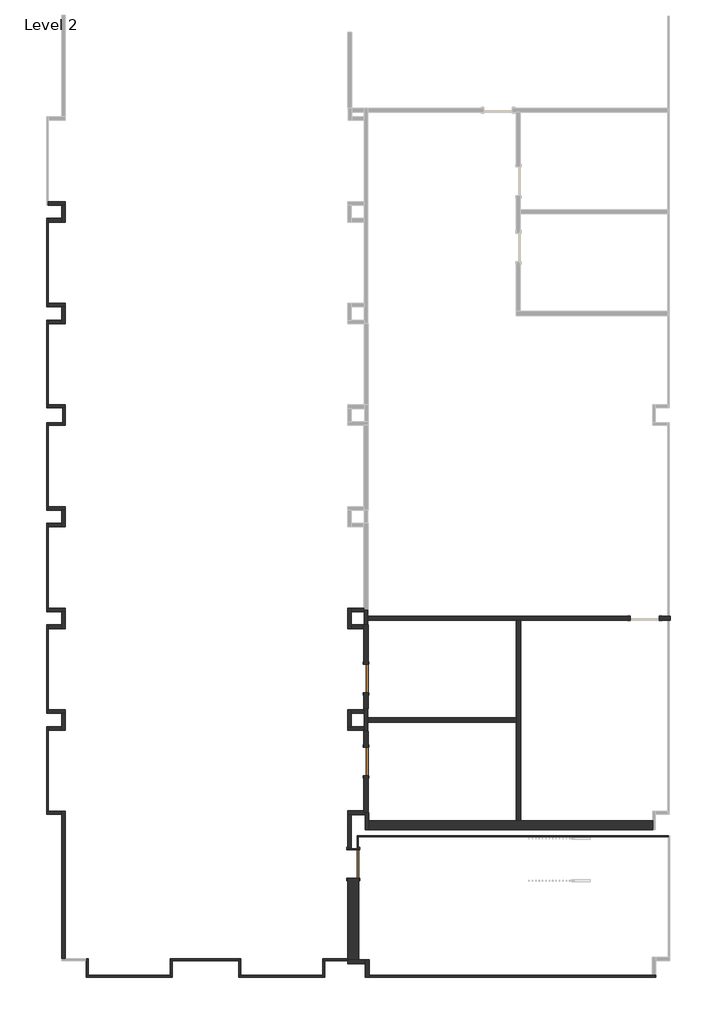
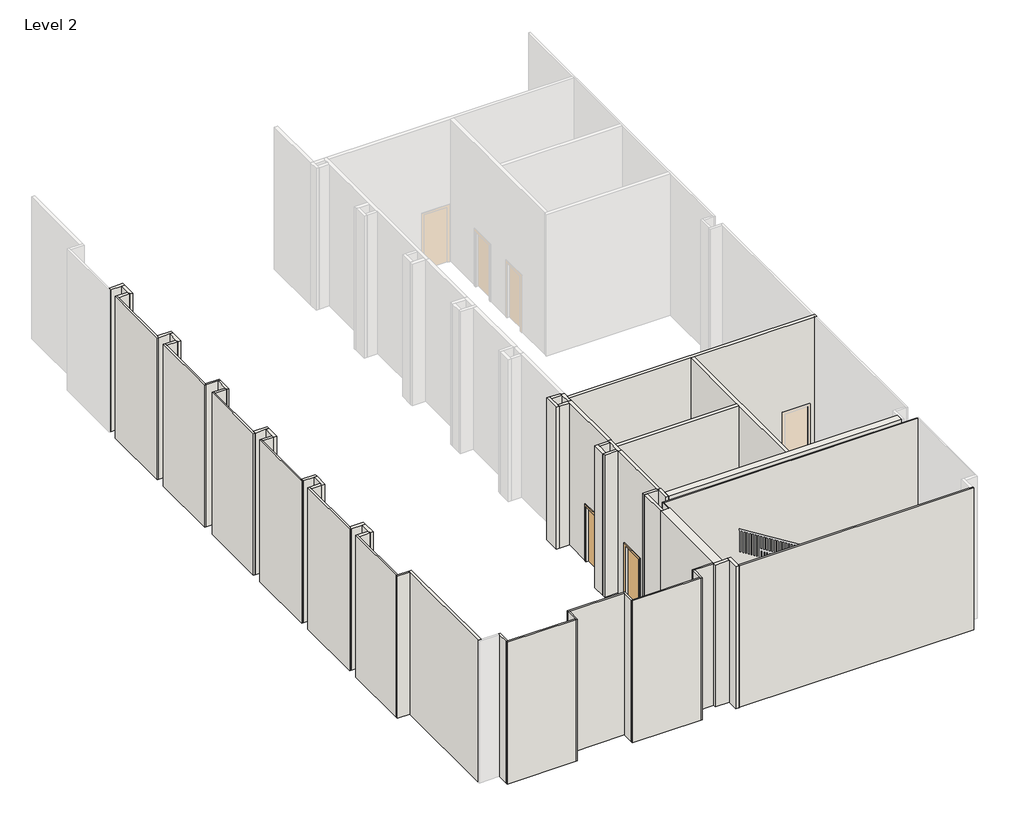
# One storey, part 2 of 9: 57 walls, 3 doors.
"""IFC4 building model written with IfcOpenShell, lengths in millimetres."""

from ifc_helpers import new_model, si_unit, frame, origin, place, context, project, spatial, polyline, outline, extrude, faceted_brep, transform, mapped, element, save
from components import door_3b0d1d25, door_7c9e1b45, door_23d6347b

model = new_model("IFC4")

# Units and contexts
model_context = context("Model", 3, world=origin())
ifc_project = project(units=[si_unit("LENGTHUNIT", "METRE", prefix="MILLI")], contexts=[model_context])

# Site, building, storey
site = spatial("IfcSite", under=ifc_project)
building = spatial("IfcBuilding", under=site)
storey = spatial("IfcBuildingStorey", under=building, Name="Level 2", Elevation=5486.4)

# Doors
placement = place(None, origin())
door_shape = door_3b0d1d25(model_context)
element("IfcDoor", 1, ObjectType="Single-Flush : 34\" x 84\"", at=placement, inside=storey, context=model_context, shape_type="MappedRepresentation", body=[
    mapped(door_shape, transform((88395.5004373, -21485.4168895, 5486.4), x_axis=(0.0, 1.0, 0.0), y_axis=(-1.0, 0.0, 0.0), z_axis=(0.0, 0.0, 1.0))),
])
door_2_shape = door_7c9e1b45(model_context)
element("IfcDoor", 2, ObjectType="Single-Flush : 34\" x 84\"", at=placement, inside=storey, context=model_context, shape_type="MappedRepresentation", body=[
    mapped(door_2_shape, transform((88395.5004373, -18996.2168895, 5486.4), x_axis=(0.0, -1.0, 0.0), y_axis=(1.0, 0.0, 0.0), z_axis=(0.0, 0.0, 1.0))),
])
door_3_shape = door_23d6347b(model_context)
element("IfcDoor", 3, ObjectType="Single-Flush : 34\" x 84\"", at=placement, inside=storey, context=model_context, shape_type="MappedRepresentation", body=[
    mapped(door_3_shape, transform((88016.1065091, -24558.8168895, 5486.4), x_axis=(0.0, 1.0, 0.0), y_axis=(-1.0, 0.0, 0.0), z_axis=(0.0, 0.0, 1.0))),
])

# Walls
element("IfcWall", 4, ObjectType="N2A/B", at=placement, inside=storey, context=model_context, shape_type="Brep", body=[
    faceted_brep([(88457.4129373, -19910.6168895, 5486.4), (88457.4129373, -19428.0168895, 5486.4), (88457.4129373, -19428.0168895, 7620.0), (88457.4129373, -18564.4168895, 7620.0), (88457.4129373, -18564.4168895, 5486.4), (88457.4129373, -17389.6668895, 5486.4), (88457.4129373, -17389.6668895, 10972.8), (88457.4129373, -19910.6168895, 10972.8), (88333.5879373, -19428.0168895, 7620.0), (88333.5879373, -19428.0168895, 5486.4), (88333.5879373, -19910.6168895, 5486.4), (88333.5879373, -19910.6168895, 10972.8), (88333.5879373, -17497.6168895, 10972.8), (88333.5879373, -17389.6668895, 10972.8), (88333.5879373, -17389.6668895, 5486.4), (88333.5879373, -17497.6168895, 5486.4), (88333.5879373, -18564.4168895, 5486.4), (88333.5879373, -18564.4168895, 7620.0), (88449.4754373, -19910.6168895, 5486.4), (88341.5254373, -19910.6168895, 5486.4), (88341.5254373, -17389.6668895, 5486.4), (88449.4754373, -17389.6668895, 5486.4), (88449.4754373, -17389.6668895, 10972.8), (88341.5254373, -17389.6668895, 10972.8), (88341.5254373, -19910.6168895, 10972.8), (88449.4754373, -19910.6168895, 10972.8)], [[[0, 1, 2, 3, 4, 5, 6, 7]], [[8, 9, 10, 11, 12, 13, 14, 15, 16, 17]], [[10, 9, 1, 0, 18, 19]], [[16, 15, 14, 20, 21, 5, 4]], [[7, 6, 22, 23, 13, 12, 11, 24, 25]], [[0, 7, 25, 24, 11, 10, 19, 18]], [[6, 5, 21, 20, 14, 13, 23, 22]], [[2, 1, 9, 8]], [[3, 2, 8, 17]], [[4, 3, 17, 16]]]),
])
element("IfcWall", 5, ObjectType="N2A/B", at=placement, inside=storey, context=model_context, shape_type="Brep", body=[
    faceted_brep([(88333.5879373, -20571.0168895, 5486.4), (88333.5879373, -21053.6168895, 5486.4), (88333.5879373, -21053.6168895, 7620.0), (88333.5879373, -21917.2168895, 7620.0), (88333.5879373, -21917.2168895, 5486.4), (88333.5879373, -22969.7293895, 5486.4), (88333.5879373, -23023.7043895, 5486.4), (88333.5879373, -23023.7043895, 10972.8), (88333.5879373, -22969.7293895, 10972.8), (88333.5879373, -20571.0168895, 10972.8), (88457.4129373, -21053.6168895, 7620.0), (88457.4129373, -21053.6168895, 5486.4), (88457.4129373, -20571.0168895, 5486.4), (88457.4129373, -20571.0168895, 10972.8), (88457.4129373, -23023.7043895, 10972.8), (88457.4129373, -23023.7043895, 5486.4), (88457.4129373, -21917.2168895, 5486.4), (88457.4129373, -21917.2168895, 7620.0), (88341.5254373, -20571.0168895, 5486.4), (88449.4754373, -20571.0168895, 5486.4), (88365.3378597, -23023.7043895, 5486.4), (88365.3378597, -23023.7043895, 10972.8), (88449.4754373, -20571.0168895, 10972.8), (88341.5254373, -20571.0168895, 10972.8)], [[[0, 1, 2, 3, 4, 5, 6, 7, 8, 9]], [[10, 11, 12, 13, 14, 15, 16, 17]], [[12, 11, 1, 0, 18, 19]], [[16, 15, 20, 6, 5, 4]], [[7, 6, 20, 15, 14, 21]], [[9, 8, 7, 21, 14, 13, 22, 23]], [[0, 9, 23, 22, 13, 12, 19, 18]], [[2, 1, 11, 10]], [[3, 2, 10, 17]], [[4, 3, 17, 16]]]),
])
element("IfcWall", 6, ObjectType="N2A/B", at=placement, inside=storey, context=model_context, shape_type="SweptSolid", body=[
    extrude(outline(polyline([(92905.5878458, -20302.7293895), (88449.4754373, -20302.7293895), (88449.4754373, -20178.9043895), (92905.5878458, -20178.9043895), (92905.5878458, -20302.7293895)])), frame((0.0, 0.0, 5486.4), z_axis=(0.0, 0.0, 1.0), x_axis=(1.0, 0.0, 0.0)), (0.0, 0.0, 1.0), 5486.4),
])
element("IfcWall", 7, ObjectType="N2A/B", at=placement, inside=storey, context=model_context, shape_type="Brep", body=[
    faceted_brep([(93029.4128458, -23270.0208895, 5486.4), (93029.4128458, -17254.7293895, 5486.4), (93029.4128458, -17254.7293895, 10972.8), (93029.4128458, -23270.0208895, 10972.8), (92905.5878458, -23270.0208895, 5486.4), (92905.5878458, -23270.0208895, 10972.8), (92905.5878458, -20302.7293895, 10972.8), (92905.5878458, -20178.9043895, 10972.8), (92905.5878458, -17254.7293895, 10972.8), (92905.5878458, -17254.7293895, 5486.4), (92905.5878458, -20178.9043895, 5486.4), (92905.5878458, -20302.7293895, 5486.4)], [[[0, 1, 2, 3]], [[4, 5, 6, 7, 8, 9, 10, 11]], [[1, 0, 4, 11, 10, 9]], [[3, 2, 8, 7, 6, 5]], [[2, 1, 9, 8]], [[0, 3, 5, 4]]]),
])
element("IfcWall", 8, ObjectType="N2A/B", at=placement, inside=storey, context=model_context, shape_type="Brep", body=[
    faceted_brep([(97514.1003458, -17130.9043895, 5486.4), (97183.9003458, -17130.9043895, 5486.4), (97183.9003458, -17130.9043895, 7620.0), (96320.3003458, -17130.9043895, 7620.0), (96320.3003458, -17130.9043895, 5486.4), (88449.4754373, -17130.9043895, 5486.4), (88449.4754373, -17130.9043895, 10972.8), (97514.1003458, -17130.9043895, 10972.8), (97183.9003458, -17254.7293895, 7620.0), (97183.9003458, -17254.7293895, 5486.4), (97514.1003458, -17254.7293895, 5486.4), (97514.1003458, -17254.7293895, 10972.8), (93029.4128458, -17254.7293895, 10972.8), (92905.5878458, -17254.7293895, 10972.8), (88449.4754373, -17254.7293895, 10972.8), (88449.4754373, -17254.7293895, 5486.4), (92905.5878458, -17254.7293895, 5486.4), (93029.4128458, -17254.7293895, 5486.4), (96320.3003458, -17254.7293895, 5486.4), (96320.3003458, -17254.7293895, 7620.0)], [[[0, 1, 2, 3, 4, 5, 6, 7]], [[8, 9, 10, 11, 12, 13, 14, 15, 16, 17, 18, 19]], [[10, 9, 1, 0]], [[18, 17, 16, 15, 5, 4]], [[7, 6, 14, 13, 12, 11]], [[0, 7, 11, 10]], [[6, 5, 15, 14]], [[2, 1, 9, 8]], [[3, 2, 8, 19]], [[4, 3, 19, 18]]]),
])
element("IfcWall", 9, ObjectType="R3A/B", at=placement, inside=storey, context=model_context, shape_type="SweptSolid", body=[
    extrude(outline(polyline([(88473.2878597, -23270.0208895), (96993.4190091, -23270.0208895), (96993.4190091, -23533.5458895), (88473.2878597, -23533.5458895), (88473.2878597, -23270.0208895)])), frame((0.0, 0.0, 5486.4), z_axis=(0.0, 0.0, 1.0), x_axis=(1.0, 0.0, 0.0)), (0.0, 0.0, 1.0), 5486.4),
])
element("IfcWall", 10, ObjectType="F1A", at=placement, inside=storey, context=model_context, shape_type="Brep", body=[
    faceted_brep([(88493.9435183, -27956.0668895, 5486.4), (97080.7315086, -27956.0668895, 5486.4), (97080.7315086, -27956.0668895, 10972.8), (88493.9435183, -27956.0668895, 10972.8), (88493.9435183, -27898.9168895, 5486.4), (88493.9435183, -27898.9168895, 10972.8), (96972.7815086, -27898.9168895, 10972.8), (97080.7315086, -27898.9168895, 10972.8), (97080.7315086, -27898.9168895, 5486.4), (96972.7815086, -27898.9168895, 5486.4)], [[[0, 1, 2, 3]], [[4, 5, 6, 7, 8, 9]], [[1, 0, 4, 9, 8]], [[3, 2, 7, 6, 5]], [[0, 3, 5, 4]], [[2, 1, 8, 7]]]),
])
element("IfcWall", 11, ObjectType="F1A", at=placement, inside=storey, context=model_context, shape_type="Brep", body=[
    faceted_brep([(87849.4190091, -27398.8543895, 5486.4), (87095.3565089, -27398.8543895, 5486.4), (87095.3565089, -27398.8543895, 10972.8), (87849.4190091, -27398.8543895, 10972.8), (87849.4190091, -27456.0043895, 5486.4), (87849.4190091, -27456.0043895, 10972.8), (87152.5065089, -27456.0043895, 10972.8), (87095.3565089, -27456.0043895, 10972.8), (87095.3565089, -27456.0043895, 5486.4), (87152.5065089, -27456.0043895, 5486.4), (87849.4190091, -27430.6043895, 5486.4), (87849.4190091, -27430.6043895, 10972.8)], [[[0, 1, 2, 3]], [[4, 5, 6, 7, 8, 9]], [[1, 0, 10, 4, 9, 8]], [[3, 2, 7, 6, 5, 11]], [[2, 1, 8, 7]], [[0, 3, 11, 5, 4, 10]]]),
])
element("IfcWall", 12, ObjectType="F1A", at=placement, inside=storey, context=model_context, shape_type="Brep", body=[
    faceted_brep([(87095.3565089, -27456.0043895, 5486.4), (87095.3565089, -27898.9168895, 5486.4), (87095.3565089, -27956.0668895, 5486.4), (87095.3565089, -27956.0668895, 10972.8), (87095.3565089, -27898.9168895, 10972.8), (87095.3565089, -27456.0043895, 10972.8), (87152.5065089, -27456.0043895, 5486.4), (87152.5065089, -27456.0043895, 10972.8), (87152.5065089, -27956.0668895, 10972.8), (87152.5065089, -27956.0668895, 5486.4)], [[[0, 1, 2, 3, 4, 5]], [[6, 7, 8, 9]], [[2, 1, 0, 6, 9]], [[5, 4, 3, 8, 7]], [[3, 2, 9, 8]], [[0, 5, 7, 6]]]),
])
element("IfcWall", 13, ObjectType="F1A", at=placement, inside=storey, context=model_context, shape_type="Brep", body=[
    faceted_brep([(87095.3565089, -27898.9168895, 5486.4), (84639.4940089, -27898.9168895, 5486.4), (84582.3440089, -27898.9168895, 5486.4), (84582.3440089, -27898.9168895, 10972.8), (84639.4940089, -27898.9168895, 10972.8), (87095.3565089, -27898.9168895, 10972.8), (87095.3565089, -27956.0668895, 5486.4), (87095.3565089, -27956.0668895, 10972.8), (84582.3440089, -27956.0668895, 10972.8), (84582.3440089, -27956.0668895, 5486.4)], [[[0, 1, 2, 3, 4, 5]], [[6, 7, 8, 9]], [[2, 1, 0, 6, 9]], [[5, 4, 3, 8, 7]], [[3, 2, 9, 8]], [[0, 5, 7, 6]]]),
])
element("IfcWall", 14, ObjectType="F1A", at=placement, inside=storey, context=model_context, shape_type="Brep", body=[
    faceted_brep([(84639.4940089, -27898.9168895, 5486.4), (84639.4940089, -27398.8543895, 5486.4), (84639.4940089, -27398.8543895, 10972.8), (84639.4940089, -27898.9168895, 10972.8), (84582.3440089, -27898.9168895, 5486.4), (84582.3440089, -27898.9168895, 10972.8), (84582.3440089, -27456.0043895, 10972.8), (84582.3440089, -27398.8543895, 10972.8), (84582.3440089, -27398.8543895, 5486.4), (84582.3440089, -27456.0043895, 5486.4)], [[[0, 1, 2, 3]], [[4, 5, 6, 7, 8, 9]], [[1, 0, 4, 9, 8]], [[3, 2, 7, 6, 5]], [[2, 1, 8, 7]], [[0, 3, 5, 4]]]),
])
element("IfcWall", 15, ObjectType="F1A", at=placement, inside=storey, context=model_context, shape_type="Brep", body=[
    faceted_brep([(84582.3440089, -27398.8543895, 5486.4), (82524.9440089, -27398.8543895, 5486.4), (82524.9440089, -27398.8543895, 10972.8), (84582.3440089, -27398.8543895, 10972.8), (84582.3440089, -27456.0043895, 5486.4), (84582.3440089, -27456.0043895, 10972.8), (82582.0940089, -27456.0043895, 10972.8), (82524.9440089, -27456.0043895, 10972.8), (82524.9440089, -27456.0043895, 5486.4), (82582.0940089, -27456.0043895, 5486.4)], [[[0, 1, 2, 3]], [[4, 5, 6, 7, 8, 9]], [[1, 0, 4, 9, 8]], [[3, 2, 7, 6, 5]], [[2, 1, 8, 7]], [[0, 3, 5, 4]]]),
])
element("IfcWall", 16, ObjectType="F1A", at=placement, inside=storey, context=model_context, shape_type="Brep", body=[
    faceted_brep([(82524.9440089, -27456.0043895, 5486.4), (82524.9440089, -27898.9168895, 5486.4), (82524.9440089, -27956.0668895, 5486.4), (82524.9440089, -27956.0668895, 10972.8), (82524.9440089, -27898.9168895, 10972.8), (82524.9440089, -27456.0043895, 10972.8), (82582.0940089, -27456.0043895, 5486.4), (82582.0940089, -27456.0043895, 10972.8), (82582.0940089, -27956.0668895, 10972.8), (82582.0940089, -27956.0668895, 5486.4)], [[[0, 1, 2, 3, 4, 5]], [[6, 7, 8, 9]], [[2, 1, 0, 6, 9]], [[5, 4, 3, 8, 7]], [[3, 2, 9, 8]], [[0, 5, 7, 6]]]),
])
element("IfcWall", 17, ObjectType="F1A", at=placement, inside=storey, context=model_context, shape_type="Brep", body=[
    faceted_brep([(82524.9440089, -27898.9168895, 5486.4), (80067.4940089, -27898.9168895, 5486.4), (80010.3440089, -27898.9168895, 5486.4), (80010.3440089, -27898.9168895, 10972.8), (80067.4940089, -27898.9168895, 10972.8), (82524.9440089, -27898.9168895, 10972.8), (82524.9440089, -27956.0668895, 5486.4), (82524.9440089, -27956.0668895, 10972.8), (80010.3440089, -27956.0668895, 10972.8), (80010.3440089, -27956.0668895, 5486.4)], [[[0, 1, 2, 3, 4, 5]], [[6, 7, 8, 9]], [[2, 1, 0, 6, 9]], [[5, 4, 3, 8, 7]], [[3, 2, 9, 8]], [[0, 5, 7, 6]]]),
])
element("IfcWall", 18, ObjectType="F1A", at=placement, inside=storey, context=model_context, shape_type="Brep", body=[
    faceted_brep([(80067.4940089, -27898.9168895, 5486.4), (80067.4940089, -27400.4418895, 5486.4), (80067.4940089, -27400.4418895, 10972.8), (80067.4940089, -27898.9168895, 10972.8), (80010.3440089, -27898.9168895, 5486.4), (80010.3440089, -27898.9168895, 10972.8), (80010.3440089, -27457.5918895, 10972.8), (80010.3440089, -27400.4418895, 10972.8), (80010.3440089, -27400.4418895, 5486.4), (80010.3440089, -27457.5918895, 5486.4)], [[[0, 1, 2, 3]], [[4, 5, 6, 7, 8, 9]], [[1, 0, 4, 9, 8]], [[3, 2, 7, 6, 5]], [[2, 1, 8, 7]], [[0, 3, 5, 4]]]),
])
element("IfcWall", 19, ObjectType="F1A", at=placement, inside=storey, context=model_context, shape_type="Brep", body=[
    faceted_brep([(78870.5190091, -22984.0168895, 5486.4), (78870.5190091, -20545.6168895, 5486.4), (78870.5190091, -20437.6668895, 5486.4), (78870.5190091, -20437.6668895, 10972.8), (78870.5190091, -20545.6168895, 10972.8), (78870.5190091, -22984.0168895, 10972.8), (78813.3690091, -22984.0168895, 5486.4), (78813.3690091, -22984.0168895, 10972.8), (78813.3690091, -20437.6668895, 10972.8), (78813.3690091, -20437.6668895, 5486.4)], [[[0, 1, 2, 3, 4, 5]], [[6, 7, 8, 9]], [[2, 1, 0, 6, 9]], [[5, 4, 3, 8, 7]], [[3, 2, 9, 8]], [[0, 5, 7, 6]]]),
])
element("IfcWall", 20, ObjectType="F1A", at=placement, inside=storey, context=model_context, shape_type="Brep", body=[
    faceted_brep([(78870.5190091, -20043.9668895, 5486.4), (78870.5190091, -19936.0168895, 5486.4), (78870.5190091, -17497.6168895, 5486.4), (78870.5190091, -17389.6668895, 5486.4), (78870.5190091, -17389.6668895, 10972.8), (78870.5190091, -17497.6168895, 10972.8), (78870.5190091, -19936.0168895, 10972.8), (78870.5190091, -20043.9668895, 10972.8), (78813.3690091, -20043.9668895, 5486.4), (78813.3690091, -20043.9668895, 10972.8), (78813.3690091, -17389.6668895, 10972.8), (78813.3690091, -17389.6668895, 5486.4)], [[[0, 1, 2, 3, 4, 5, 6, 7]], [[8, 9, 10, 11]], [[3, 2, 1, 0, 8, 11]], [[7, 6, 5, 4, 10, 9]], [[4, 3, 11, 10]], [[0, 7, 9, 8]]]),
])
element("IfcWall", 21, ObjectType="F1A", at=placement, inside=storey, context=model_context, shape_type="Brep", body=[
    faceted_brep([(78870.5190091, -16995.9668895, 5486.4), (78870.5190091, -16888.0168895, 5486.4), (78870.5190091, -14449.6168895, 5486.4), (78870.5190091, -14341.6668895, 5486.4), (78870.5190091, -14341.6668895, 10972.8), (78870.5190091, -14449.6168895, 10972.8), (78870.5190091, -16888.0168895, 10972.8), (78870.5190091, -16995.9668895, 10972.8), (78813.3690091, -16995.9668895, 5486.4), (78813.3690091, -16995.9668895, 10972.8), (78813.3690091, -14341.6668895, 10972.8), (78813.3690091, -14341.6668895, 5486.4)], [[[0, 1, 2, 3, 4, 5, 6, 7]], [[8, 9, 10, 11]], [[3, 2, 1, 0, 8, 11]], [[7, 6, 5, 4, 10, 9]], [[4, 3, 11, 10]], [[0, 7, 9, 8]]]),
])
element("IfcWall", 22, ObjectType="F1A", at=placement, inside=storey, context=model_context, shape_type="Brep", body=[
    faceted_brep([(78870.5190091, -13947.9668895, 5486.4), (78870.5190091, -13840.0168895, 5486.4), (78870.5190091, -11401.6168894, 5486.4), (78870.5190091, -11322.2418894, 5486.4), (78870.5190091, -11322.2418894, 10972.8), (78870.5190091, -11401.6168894, 10972.8), (78870.5190091, -13840.0168895, 10972.8), (78870.5190091, -13947.9668895, 10972.8), (78813.3690091, -13947.9668895, 5486.4), (78813.3690091, -13947.9668895, 10972.8), (78813.3690091, -11322.2418894, 10972.8), (78813.3690091, -11322.2418894, 5486.4)], [[[0, 1, 2, 3, 4, 5, 6, 7]], [[8, 9, 10, 11]], [[3, 2, 1, 0, 8, 11]], [[7, 6, 5, 4, 10, 9]], [[4, 3, 11, 10]], [[0, 7, 9, 8]]]),
])
element("IfcWall", 23, ObjectType="F1A", at=placement, inside=storey, context=model_context, shape_type="Brep", body=[
    faceted_brep([(78870.5190091, -10871.3918895, 5486.4), (78870.5190091, -10792.0168895, 5486.4), (78870.5190091, -8353.6168895, 5486.4), (78870.5190091, -8245.6668895, 5486.4), (78870.5190091, -8245.6668895, 10972.8), (78870.5190091, -8353.6168895, 10972.8), (78870.5190091, -10792.0168895, 10972.8), (78870.5190091, -10871.3918895, 10972.8), (78813.3690091, -10871.3918895, 5486.4), (78813.3690091, -10871.3918895, 10972.8), (78813.3690091, -8245.6668895, 10972.8), (78813.3690091, -8245.6668895, 5486.4)], [[[0, 1, 2, 3, 4, 5, 6, 7]], [[8, 9, 10, 11]], [[3, 2, 1, 0, 8, 11]], [[7, 6, 5, 4, 10, 9]], [[4, 3, 11, 10]], [[0, 7, 9, 8]]]),
])
element("IfcWall", 24, ObjectType="F1A", at=placement, inside=storey, context=model_context, shape_type="Brep", body=[
    faceted_brep([(78870.5190091, -7851.9668895, 5486.4), (78870.5190091, -7744.0168895, 5486.4), (78870.5190091, -5305.6168894, 5486.4), (78870.5190091, -5197.6668894, 5486.4), (78870.5190091, -5197.6668894, 10972.8), (78870.5190091, -5305.6168894, 10972.8), (78870.5190091, -7744.0168895, 10972.8), (78870.5190091, -7851.9668895, 10972.8), (78813.3690091, -7851.9668895, 5486.4), (78813.3690091, -7851.9668895, 10972.8), (78813.3690091, -5197.6668894, 10972.8), (78813.3690091, -5197.6668894, 5486.4)], [[[0, 1, 2, 3, 4, 5, 6, 7]], [[8, 9, 10, 11]], [[3, 2, 1, 0, 8, 11]], [[7, 6, 5, 4, 10, 9]], [[4, 3, 11, 10]], [[0, 7, 9, 8]]]),
])
element("IfcWall", 25, ObjectType="F1B", at=placement, inside=storey, context=model_context, shape_type="Brep", body=[
    faceted_brep([(79270.5690091, -22984.0168895, 5486.4), (78870.5190091, -22984.0168895, 5486.4), (78813.3690091, -22984.0168895, 5486.4), (78813.3690091, -22984.0168895, 10972.8), (78870.5190091, -22984.0168895, 10972.8), (79270.5690091, -22984.0168895, 10972.8), (79270.5690091, -23063.3918895, 5486.4), (79270.5690091, -23063.3918895, 10972.8), (78813.3690091, -23063.3918895, 10972.8), (78813.3690091, -23063.3918895, 5486.4)], [[[0, 1, 2, 3, 4, 5]], [[6, 7, 8, 9]], [[2, 1, 0, 6, 9]], [[5, 4, 3, 8, 7]], [[3, 2, 9, 8]], [[0, 5, 7, 6]]]),
])
element("IfcWall", 26, ObjectType="F1B", at=placement, inside=storey, context=model_context, shape_type="Brep", body=[
    faceted_brep([(78870.5190091, -10871.3918895, 5486.4), (79299.1440091, -10871.3918895, 5486.4), (79378.5190091, -10871.3918895, 5486.4), (79378.5190091, -10871.3918895, 10972.8), (79299.1440091, -10871.3918895, 10972.8), (78870.5190091, -10871.3918895, 10972.8), (78870.5190091, -10792.0168895, 5486.4), (78870.5190091, -10792.0168895, 10972.8), (79378.5190091, -10792.0168895, 10972.8), (79378.5190091, -10792.0168895, 5486.4)], [[[0, 1, 2, 3, 4, 5]], [[6, 7, 8, 9]], [[2, 1, 0, 6, 9]], [[5, 4, 3, 8, 7]], [[3, 2, 9, 8]], [[0, 5, 7, 6]]]),
])
element("IfcWall", 27, ObjectType="F1B", at=placement, inside=storey, context=model_context, shape_type="Brep", body=[
    faceted_brep([(79299.1440091, -10871.3918895, 5486.4), (79299.1440091, -11322.2418894, 5486.4), (79299.1440091, -11401.6168894, 5486.4), (79299.1440091, -11401.6168894, 10972.8), (79299.1440091, -11322.2418894, 10972.8), (79299.1440091, -10871.3918895, 10972.8), (79378.5190091, -10871.3918895, 5486.4), (79378.5190091, -10871.3918895, 10972.8), (79378.5190091, -11401.6168894, 10972.8), (79378.5190091, -11401.6168894, 5486.4)], [[[0, 1, 2, 3, 4, 5]], [[6, 7, 8, 9]], [[2, 1, 0, 6, 9]], [[5, 4, 3, 8, 7]], [[3, 2, 9, 8]], [[0, 5, 7, 6]]]),
])
element("IfcWall", 28, ObjectType="F1B", at=placement, inside=storey, context=model_context, shape_type="SweptSolid", body=[
    extrude(outline(polyline([(78870.5190091, -11322.2418894), (79299.1440091, -11322.2418894), (79299.1440091, -11401.6168894), (78870.5190091, -11401.6168894), (78870.5190091, -11322.2418894)])), frame((0.0, 0.0, 5486.4), z_axis=(0.0, 0.0, 1.0), x_axis=(1.0, 0.0, 0.0)), (0.0, 0.0, 1.0), 5486.4),
])
element("IfcWall", 29, ObjectType="F1C", at=placement, inside=storey, context=model_context, shape_type="Brep", body=[
    faceted_brep([(79378.5190091, -27400.4418895, 5486.4), (79378.5190091, -22984.0168895, 5486.4), (79378.5190091, -22984.0168895, 10972.8), (79378.5190091, -27400.4418895, 10972.8), (79270.5690091, -27400.4418895, 5486.4), (79270.5690091, -27400.4418895, 10972.8), (79270.5690091, -23063.3918895, 10972.8), (79270.5690091, -22984.0168895, 10972.8), (79270.5690091, -22984.0168895, 5486.4), (79270.5690091, -23063.3918895, 5486.4)], [[[0, 1, 2, 3]], [[4, 5, 6, 7, 8, 9]], [[1, 0, 4, 9, 8]], [[3, 2, 7, 6, 5]], [[2, 1, 8, 7]], [[0, 3, 5, 4]]]),
])
element("IfcWall", 30, ObjectType="F1C", at=placement, inside=storey, context=model_context, shape_type="Brep", body=[
    faceted_brep([(78870.5190091, -4803.9668894, 5486.4), (79270.5690091, -4803.9668894, 5486.4), (79378.5190091, -4803.9668894, 5486.4), (79378.5190091, -4803.9668894, 10972.8), (79270.5690091, -4803.9668894, 10972.8), (78870.5190091, -4803.9668894, 10972.8), (78870.5190091, -4696.0168894, 5486.4), (78870.5190091, -4696.0168894, 10972.8), (79378.5190091, -4696.0168894, 10972.8), (79378.5190091, -4696.0168894, 5486.4)], [[[0, 1, 2, 3, 4, 5]], [[6, 7, 8, 9]], [[2, 1, 0, 6, 9]], [[5, 4, 3, 8, 7]], [[3, 2, 9, 8]], [[0, 5, 7, 6]]]),
])
element("IfcWall", 31, ObjectType="F1C", at=placement, inside=storey, context=model_context, shape_type="Brep", body=[
    faceted_brep([(79270.5690091, -4803.9668894, 5486.4), (79270.5690091, -5197.6668894, 5486.4), (79270.5690091, -5305.6168894, 5486.4), (79270.5690091, -5305.6168894, 10972.8), (79270.5690091, -5197.6668894, 10972.8), (79270.5690091, -4803.9668894, 10972.8), (79378.5190091, -4803.9668894, 5486.4), (79378.5190091, -4803.9668894, 10972.8), (79378.5190091, -5305.6168894, 10972.8), (79378.5190091, -5305.6168894, 5486.4)], [[[0, 1, 2, 3, 4, 5]], [[6, 7, 8, 9]], [[2, 1, 0, 6, 9]], [[5, 4, 3, 8, 7]], [[3, 2, 9, 8]], [[0, 5, 7, 6]]]),
])
element("IfcWall", 32, ObjectType="F1C", at=placement, inside=storey, context=model_context, shape_type="SweptSolid", body=[
    extrude(outline(polyline([(78870.5190091, -5197.6668894), (79270.5690091, -5197.6668894), (79270.5690091, -5305.6168894), (78870.5190091, -5305.6168894), (78870.5190091, -5197.6668894)])), frame((0.0, 0.0, 5486.4), z_axis=(0.0, 0.0, 1.0), x_axis=(1.0, 0.0, 0.0)), (0.0, 0.0, 1.0), 5486.4),
])
element("IfcWall", 33, ObjectType="F1C", at=placement, inside=storey, context=model_context, shape_type="Brep", body=[
    faceted_brep([(78870.5190091, -7851.9668895, 5486.4), (79270.5690091, -7851.9668895, 5486.4), (79378.5190091, -7851.9668895, 5486.4), (79378.5190091, -7851.9668895, 10972.8), (79270.5690091, -7851.9668895, 10972.8), (78870.5190091, -7851.9668895, 10972.8), (78870.5190091, -7744.0168895, 5486.4), (78870.5190091, -7744.0168895, 10972.8), (79378.5190091, -7744.0168895, 10972.8), (79378.5190091, -7744.0168895, 5486.4)], [[[0, 1, 2, 3, 4, 5]], [[6, 7, 8, 9]], [[2, 1, 0, 6, 9]], [[5, 4, 3, 8, 7]], [[3, 2, 9, 8]], [[0, 5, 7, 6]]]),
])
element("IfcWall", 34, ObjectType="F1C", at=placement, inside=storey, context=model_context, shape_type="Brep", body=[
    faceted_brep([(79270.5690091, -7851.9668895, 5486.4), (79270.5690091, -8245.6668895, 5486.4), (79270.5690091, -8353.6168895, 5486.4), (79270.5690091, -8353.6168895, 10972.8), (79270.5690091, -8245.6668895, 10972.8), (79270.5690091, -7851.9668895, 10972.8), (79378.5190091, -7851.9668895, 5486.4), (79378.5190091, -7851.9668895, 10972.8), (79378.5190091, -8353.6168895, 10972.8), (79378.5190091, -8353.6168895, 5486.4)], [[[0, 1, 2, 3, 4, 5]], [[6, 7, 8, 9]], [[2, 1, 0, 6, 9]], [[5, 4, 3, 8, 7]], [[3, 2, 9, 8]], [[0, 5, 7, 6]]]),
])
element("IfcWall", 35, ObjectType="F1C", at=placement, inside=storey, context=model_context, shape_type="SweptSolid", body=[
    extrude(outline(polyline([(78870.5190091, -8245.6668895), (79270.5690091, -8245.6668895), (79270.5690091, -8353.6168895), (78870.5190091, -8353.6168895), (78870.5190091, -8245.6668895)])), frame((0.0, 0.0, 5486.4), z_axis=(0.0, 0.0, 1.0), x_axis=(1.0, 0.0, 0.0)), (0.0, 0.0, 1.0), 5486.4),
])
element("IfcWall", 36, ObjectType="F1C", at=placement, inside=storey, context=model_context, shape_type="Brep", body=[
    faceted_brep([(78870.5190091, -13947.9668895, 5486.4), (79270.5690091, -13947.9668895, 5486.4), (79378.5190091, -13947.9668895, 5486.4), (79378.5190091, -13947.9668895, 10972.8), (79270.5690091, -13947.9668895, 10972.8), (78870.5190091, -13947.9668895, 10972.8), (78870.5190091, -13840.0168895, 5486.4), (78870.5190091, -13840.0168895, 10972.8), (79378.5190091, -13840.0168895, 10972.8), (79378.5190091, -13840.0168895, 5486.4)], [[[0, 1, 2, 3, 4, 5]], [[6, 7, 8, 9]], [[2, 1, 0, 6, 9]], [[5, 4, 3, 8, 7]], [[3, 2, 9, 8]], [[0, 5, 7, 6]]]),
])
element("IfcWall", 37, ObjectType="F1C", at=placement, inside=storey, context=model_context, shape_type="Brep", body=[
    faceted_brep([(79270.5690091, -13947.9668895, 5486.4), (79270.5690091, -14341.6668895, 5486.4), (79270.5690091, -14449.6168895, 5486.4), (79270.5690091, -14449.6168895, 10972.8), (79270.5690091, -14341.6668895, 10972.8), (79270.5690091, -13947.9668895, 10972.8), (79378.5190091, -13947.9668895, 5486.4), (79378.5190091, -13947.9668895, 10972.8), (79378.5190091, -14449.6168895, 10972.8), (79378.5190091, -14449.6168895, 5486.4)], [[[0, 1, 2, 3, 4, 5]], [[6, 7, 8, 9]], [[2, 1, 0, 6, 9]], [[5, 4, 3, 8, 7]], [[3, 2, 9, 8]], [[0, 5, 7, 6]]]),
])
element("IfcWall", 38, ObjectType="F1C", at=placement, inside=storey, context=model_context, shape_type="SweptSolid", body=[
    extrude(outline(polyline([(78870.5190091, -14341.6668895), (79270.5690091, -14341.6668895), (79270.5690091, -14449.6168895), (78870.5190091, -14449.6168895), (78870.5190091, -14341.6668895)])), frame((0.0, 0.0, 5486.4), z_axis=(0.0, 0.0, 1.0), x_axis=(1.0, 0.0, 0.0)), (0.0, 0.0, 1.0), 5486.4),
])
element("IfcWall", 39, ObjectType="F1C", at=placement, inside=storey, context=model_context, shape_type="Brep", body=[
    faceted_brep([(78870.5190091, -16995.9668895, 5486.4), (79270.5690091, -16995.9668895, 5486.4), (79378.5190091, -16995.9668895, 5486.4), (79378.5190091, -16995.9668895, 10972.8), (79270.5690091, -16995.9668895, 10972.8), (78870.5190091, -16995.9668895, 10972.8), (78870.5190091, -16888.0168895, 5486.4), (78870.5190091, -16888.0168895, 10972.8), (79378.5190091, -16888.0168895, 10972.8), (79378.5190091, -16888.0168895, 5486.4)], [[[0, 1, 2, 3, 4, 5]], [[6, 7, 8, 9]], [[2, 1, 0, 6, 9]], [[5, 4, 3, 8, 7]], [[3, 2, 9, 8]], [[0, 5, 7, 6]]]),
])
element("IfcWall", 40, ObjectType="F1C", at=placement, inside=storey, context=model_context, shape_type="Brep", body=[
    faceted_brep([(79270.5690091, -16995.9668895, 5486.4), (79270.5690091, -17389.6668895, 5486.4), (79270.5690091, -17497.6168895, 5486.4), (79270.5690091, -17497.6168895, 10972.8), (79270.5690091, -17389.6668895, 10972.8), (79270.5690091, -16995.9668895, 10972.8), (79378.5190091, -16995.9668895, 5486.4), (79378.5190091, -16995.9668895, 10972.8), (79378.5190091, -17497.6168895, 10972.8), (79378.5190091, -17497.6168895, 5486.4)], [[[0, 1, 2, 3, 4, 5]], [[6, 7, 8, 9]], [[2, 1, 0, 6, 9]], [[5, 4, 3, 8, 7]], [[3, 2, 9, 8]], [[0, 5, 7, 6]]]),
])
element("IfcWall", 41, ObjectType="F1C", at=placement, inside=storey, context=model_context, shape_type="SweptSolid", body=[
    extrude(outline(polyline([(78870.5190091, -17389.6668895), (79270.5690091, -17389.6668895), (79270.5690091, -17497.6168895), (78870.5190091, -17497.6168895), (78870.5190091, -17389.6668895)])), frame((0.0, 0.0, 5486.4), z_axis=(0.0, 0.0, 1.0), x_axis=(1.0, 0.0, 0.0)), (0.0, 0.0, 1.0), 5486.4),
])
element("IfcWall", 42, ObjectType="F1C", at=placement, inside=storey, context=model_context, shape_type="Brep", body=[
    faceted_brep([(78870.5190091, -20043.9668895, 5486.4), (79270.5690091, -20043.9668895, 5486.4), (79378.5190091, -20043.9668895, 5486.4), (79378.5190091, -20043.9668895, 10972.8), (79270.5690091, -20043.9668895, 10972.8), (78870.5190091, -20043.9668895, 10972.8), (78870.5190091, -19936.0168895, 5486.4), (78870.5190091, -19936.0168895, 10972.8), (79378.5190091, -19936.0168895, 10972.8), (79378.5190091, -19936.0168895, 5486.4)], [[[0, 1, 2, 3, 4, 5]], [[6, 7, 8, 9]], [[2, 1, 0, 6, 9]], [[5, 4, 3, 8, 7]], [[3, 2, 9, 8]], [[0, 5, 7, 6]]]),
])
element("IfcWall", 43, ObjectType="F1C", at=placement, inside=storey, context=model_context, shape_type="Brep", body=[
    faceted_brep([(79270.5690091, -20043.9668895, 5486.4), (79270.5690091, -20437.6668895, 5486.4), (79270.5690091, -20545.6168895, 5486.4), (79270.5690091, -20545.6168895, 10972.8), (79270.5690091, -20437.6668895, 10972.8), (79270.5690091, -20043.9668895, 10972.8), (79378.5190091, -20043.9668895, 5486.4), (79378.5190091, -20043.9668895, 10972.8), (79378.5190091, -20545.6168895, 10972.8), (79378.5190091, -20545.6168895, 5486.4)], [[[0, 1, 2, 3, 4, 5]], [[6, 7, 8, 9]], [[2, 1, 0, 6, 9]], [[5, 4, 3, 8, 7]], [[3, 2, 9, 8]], [[0, 5, 7, 6]]]),
])
element("IfcWall", 44, ObjectType="F1C", at=placement, inside=storey, context=model_context, shape_type="SweptSolid", body=[
    extrude(outline(polyline([(78870.5190091, -20437.6668895), (79270.5690091, -20437.6668895), (79270.5690091, -20545.6168895), (78870.5190091, -20545.6168895), (78870.5190091, -20437.6668895)])), frame((0.0, 0.0, 5486.4), z_axis=(0.0, 0.0, 1.0), x_axis=(1.0, 0.0, 0.0)), (0.0, 0.0, 1.0), 5486.4),
])
element("IfcWall", 45, ObjectType="F2A", at=placement, inside=storey, context=model_context, shape_type="Brep", body=[
    faceted_brep([(88473.2878597, -23533.5458895, 5486.4), (88473.2878597, -23023.7043895, 5486.4), (88473.2878597, -23023.7043895, 10972.8), (88473.2878597, -23533.5458895, 10972.8), (88365.3378597, -23533.5458895, 5486.4), (88365.3378597, -23533.5458895, 10972.8), (88365.3378597, -23077.6793895, 10972.8), (88365.3378597, -23023.7043895, 10972.8), (88365.3378597, -23023.7043895, 5486.4), (88365.3378597, -23077.6793895, 5486.4), (88457.4129373, -23023.7043895, 5486.4), (88457.4129373, -23023.7043895, 10972.8)], [[[0, 1, 2, 3]], [[4, 5, 6, 7, 8, 9]], [[1, 0, 4, 9, 8, 10]], [[2, 1, 10, 8, 7, 11]], [[3, 2, 11, 7, 6, 5]], [[0, 3, 5, 4]]]),
])
element("IfcWall", 46, ObjectType="F2A", at=placement, inside=storey, context=model_context, shape_type="Brep", body=[
    faceted_brep([(88333.5879373, -22969.7293895, 5486.4), (87849.4097232, -22969.7293895, 5486.4), (87849.4097232, -22969.7293895, 10972.8), (88333.5879373, -22969.7293895, 10972.8), (88365.3378597, -23077.6793895, 5486.4), (88365.3378597, -23077.6793895, 10972.8), (87957.3597232, -23077.6793895, 10972.8), (87849.4097232, -23077.6793895, 10972.8), (87849.4097232, -23077.6793895, 5486.4), (87957.3597232, -23077.6793895, 5486.4), (88333.5879373, -23023.7043895, 5486.4), (88365.3378597, -23023.7043895, 5486.4), (88365.3378597, -23023.7043895, 10972.8), (88333.5879373, -23023.7043895, 10972.8)], [[[0, 1, 2, 3]], [[4, 5, 6, 7, 8, 9]], [[1, 0, 10, 11, 4, 9, 8]], [[3, 2, 7, 6, 5, 12, 13]], [[2, 1, 8, 7]], [[0, 3, 13, 10]], [[13, 12, 11, 10]], [[12, 5, 4, 11]]]),
])
element("IfcWall", 47, ObjectType="F2A", at=placement, inside=storey, context=model_context, shape_type="SweptSolid", body=[
    extrude(outline(polyline([(87849.4097232, -24101.6168895), (87849.4097232, -23077.6793895), (87957.3597232, -23077.6793895), (87957.3597232, -24101.6168895), (87849.4097232, -24101.6168895)])), frame((0.0, 0.0, 5486.4), z_axis=(0.0, 0.0, 1.0), x_axis=(1.0, 0.0, 0.0)), (0.0, 0.0, 1.0), 5486.4),
])
element("IfcWall", 48, ObjectType="F2A", at=placement, inside=storey, context=model_context, shape_type="Brep", body=[
    faceted_brep([(88341.5254373, -19910.6168895, 5486.4), (88341.5254373, -19936.0168895, 5486.4), (88341.5254373, -20043.9668895, 5486.4), (88341.5254373, -20437.6668895, 5486.4), (88341.5254373, -20545.6168895, 5486.4), (88341.5254373, -20571.0168895, 5486.4), (88341.5254373, -20571.0168895, 10972.8), (88341.5254373, -20545.6168895, 10972.8), (88341.5254373, -20437.6668895, 10972.8), (88341.5254373, -20043.9668895, 10972.8), (88341.5254373, -19936.0168895, 10972.8), (88341.5254373, -19910.6168895, 10972.8), (88449.4754373, -19910.6168895, 5486.4), (88449.4754373, -19910.6168895, 10972.8), (88449.4754373, -20178.9043895, 10972.8), (88449.4754373, -20302.7293895, 10972.8), (88449.4754373, -20571.0168895, 10972.8), (88449.4754373, -20571.0168895, 5486.4), (88449.4754373, -20302.7293895, 5486.4), (88449.4754373, -20178.9043895, 5486.4)], [[[0, 1, 2, 3, 4, 5, 6, 7, 8, 9, 10, 11]], [[12, 13, 14, 15, 16, 17, 18, 19]], [[5, 4, 3, 2, 1, 0, 12, 19, 18, 17]], [[6, 5, 17, 16]], [[11, 10, 9, 8, 7, 6, 16, 15, 14, 13]], [[0, 11, 13, 12]]]),
])
element("IfcWall", 49, ObjectType="F2A", at=placement, inside=storey, context=model_context, shape_type="Brep", body=[
    faceted_brep([(88341.5254373, -20437.6668895, 5486.4), (87957.3597232, -20437.6668895, 5486.4), (87849.4097232, -20437.6668895, 5486.4), (87849.4097232, -20437.6668895, 10972.8), (87957.3597232, -20437.6668895, 10972.8), (88341.5254373, -20437.6668895, 10972.8), (88341.5254373, -20545.6168895, 5486.4), (88341.5254373, -20545.6168895, 10972.8), (87849.4097232, -20545.6168895, 10972.8), (87849.4097232, -20545.6168895, 5486.4)], [[[0, 1, 2, 3, 4, 5]], [[6, 7, 8, 9]], [[2, 1, 0, 6, 9]], [[5, 4, 3, 8, 7]], [[3, 2, 9, 8]], [[0, 5, 7, 6]]]),
])
element("IfcWall", 50, ObjectType="F2A", at=placement, inside=storey, context=model_context, shape_type="Brep", body=[
    faceted_brep([(87957.3597232, -20437.6668895, 5486.4), (87957.3597232, -20043.9668895, 5486.4), (87957.3597232, -19936.0168895, 5486.4), (87957.3597232, -19936.0168895, 10972.8), (87957.3597232, -20043.9668895, 10972.8), (87957.3597232, -20437.6668895, 10972.8), (87849.4097232, -20437.6668895, 5486.4), (87849.4097232, -20437.6668895, 10972.8), (87849.4097232, -19936.0168895, 10972.8), (87849.4097232, -19936.0168895, 5486.4)], [[[0, 1, 2, 3, 4, 5]], [[6, 7, 8, 9]], [[2, 1, 0, 6, 9]], [[5, 4, 3, 8, 7]], [[3, 2, 9, 8]], [[0, 5, 7, 6]]]),
])
element("IfcWall", 51, ObjectType="F2A", at=placement, inside=storey, context=model_context, shape_type="SweptSolid", body=[
    extrude(outline(polyline([(88341.5254373, -20043.9668895), (87957.3597232, -20043.9668895), (87957.3597232, -19936.0168895), (88341.5254373, -19936.0168895), (88341.5254373, -20043.9668895)])), frame((0.0, 0.0, 5486.4), z_axis=(0.0, 0.0, 1.0), x_axis=(1.0, 0.0, 0.0)), (0.0, 0.0, 1.0), 5486.4),
])
element("IfcWall", 52, ObjectType="F2A", at=placement, inside=storey, context=model_context, shape_type="Brep", body=[
    faceted_brep([(87849.4097232, -16888.0168895, 5486.4), (87849.4097232, -17497.6168895, 5486.4), (87849.4097232, -17497.6168895, 10972.8), (87849.4097232, -16888.0168895, 10972.8), (87957.3597232, -16888.0168895, 5486.4), (87957.3597232, -16888.0168895, 10972.8), (87957.3597232, -16995.9668895, 10972.8), (87957.3597232, -17389.6668895, 10972.8), (87957.3597232, -17497.6168895, 10972.8), (87957.3597232, -17497.6168895, 5486.4), (87957.3597232, -17389.6668895, 5486.4), (87957.3597232, -16995.9668895, 5486.4)], [[[0, 1, 2, 3]], [[4, 5, 6, 7, 8, 9, 10, 11]], [[1, 0, 4, 11, 10, 9]], [[3, 2, 8, 7, 6, 5]], [[2, 1, 9, 8]], [[0, 3, 5, 4]]]),
])
element("IfcWall", 53, ObjectType="F2A", at=placement, inside=storey, context=model_context, shape_type="SweptSolid", body=[
    extrude(outline(polyline([(88333.5879373, -17497.6168895), (87957.3597232, -17497.6168895), (87957.3597232, -17389.6668895), (88333.5879373, -17389.6668895), (88333.5879373, -17497.6168895)])), frame((0.0, 0.0, 5486.4), z_axis=(0.0, 0.0, 1.0), x_axis=(1.0, 0.0, 0.0)), (0.0, 0.0, 1.0), 5486.4),
])
element("IfcWall", 54, ObjectType="F2A", at=placement, inside=storey, context=model_context, shape_type="Brep", body=[
    faceted_brep([(88449.4754373, -17389.6668895, 5486.4), (88449.4754373, -17254.7293895, 5486.4), (88449.4754373, -17130.9043895, 5486.4), (88449.4754373, -16941.9918895, 5486.4), (88449.4754373, -16941.9918895, 10972.8), (88449.4754373, -17130.9043895, 10972.8), (88449.4754373, -17254.7293895, 10972.8), (88449.4754373, -17389.6668895, 10972.8), (88341.5254373, -17389.6668895, 5486.4), (88341.5254373, -17389.6668895, 10972.8), (88341.5254373, -16995.9668895, 10972.8), (88341.5254373, -16941.9918895, 10972.8), (88341.5254373, -16941.9918895, 5486.4), (88341.5254373, -16995.9668895, 5486.4)], [[[0, 1, 2, 3, 4, 5, 6, 7]], [[8, 9, 10, 11, 12, 13]], [[3, 2, 1, 0, 8, 13, 12]], [[4, 3, 12, 11]], [[7, 6, 5, 4, 11, 10, 9]], [[0, 7, 9, 8]]]),
])
element("IfcWall", 55, ObjectType="F2A", at=placement, inside=storey, context=model_context, shape_type="SweptSolid", body=[
    extrude(outline(polyline([(88341.5254373, -16995.9668895), (87957.3597232, -16995.9668895), (87957.3597232, -16888.0168895), (88333.5879373, -16888.0168895), (88333.5879373, -16941.9918895), (88341.5254373, -16941.9918895), (88341.5254373, -16995.9668895)])), frame((0.0, 0.0, 5486.4), z_axis=(0.0, 0.0, 1.0), x_axis=(1.0, 0.0, 0.0)), (0.0, 0.0, 1.0), 5486.4),
])
element("IfcWall", 56, ObjectType="F4A", at=placement, inside=storey, context=model_context, shape_type="Brep", body=[
    faceted_brep([(88492.3560183, -27962.4168895, 5486.4), (88492.3560183, -27430.6043895, 5486.4), (88492.3560183, -27430.6043895, 10972.8), (88492.3560183, -27962.4168895, 10972.8), (88368.5310183, -27962.4168895, 5486.4), (88368.5310183, -27962.4168895, 10972.8), (88368.5310183, -27554.4293895, 10972.8), (88368.5310183, -27430.6043895, 10972.8), (88368.5310183, -27430.6043895, 5486.4), (88368.5310183, -27554.4293895, 5486.4)], [[[0, 1, 2, 3]], [[4, 5, 6, 7, 8, 9]], [[1, 0, 4, 9, 8]], [[3, 2, 7, 6, 5]], [[0, 3, 5, 4]], [[2, 1, 8, 7]]]),
])
element("IfcWall", 57, ObjectType="F4A", at=placement, inside=storey, context=model_context, shape_type="Brep", body=[
    faceted_brep([(88368.5310183, -27430.6043895, 5486.4), (88182.7940091, -27430.6043895, 5486.4), (87849.4190091, -27430.6043895, 5486.4), (87849.4190091, -27430.6043895, 10972.8), (88182.7940091, -27430.6043895, 10972.8), (88368.5310183, -27430.6043895, 10972.8), (88368.5310183, -27554.4293895, 5486.4), (88368.5310183, -27554.4293895, 10972.8), (87849.4190091, -27554.4293895, 10972.8), (87849.4190091, -27554.4293895, 5486.4), (87849.4190091, -27456.0043895, 5486.4), (87849.4190091, -27456.0043895, 10972.8)], [[[0, 1, 2, 3, 4, 5]], [[6, 7, 8, 9]], [[2, 1, 0, 6, 9, 10]], [[5, 4, 3, 11, 8, 7]], [[3, 2, 10, 9, 8, 11]], [[0, 5, 7, 6]]]),
])
element("IfcWall", 58, ObjectType="F6A", at=placement, inside=storey, context=model_context, shape_type="Brep", body=[
    faceted_brep([(97463.3190091, -23708.4248895, 5486.4), (88128.8185868, -23708.4248895, 5486.4), (88128.8185868, -23708.4248895, 10972.8), (97463.3190091, -23708.4248895, 10972.8), (97463.3190091, -23746.5248895, 5486.4), (97463.3190091, -23746.5248895, 10972.8), (88166.9185868, -23746.5248895, 10972.8), (88128.8185868, -23746.5248895, 10972.8), (88128.8185868, -23746.5248895, 5486.4), (88166.9185868, -23746.5248895, 5486.4)], [[[0, 1, 2, 3]], [[4, 5, 6, 7, 8, 9]], [[1, 0, 4, 9, 8]], [[3, 2, 7, 6, 5]], [[2, 1, 8, 7]], [[0, 3, 5, 4]]]),
])
element("IfcWall", 59, ObjectType="F6A", at=placement, inside=storey, context=model_context, shape_type="SweptSolid", body=[
    extrude(outline(polyline([(88128.8185868, -24101.6168895), (88128.8185868, -23746.5248895), (88166.9185868, -23746.5248895), (88166.9185868, -24101.6168895), (88128.8185868, -24101.6168895)])), frame((0.0, 0.0, 5486.4), z_axis=(0.0, 0.0, 1.0), x_axis=(1.0, 0.0, 0.0)), (0.0, 0.0, 1.0), 5486.4),
])
element("IfcWall", 60, ObjectType="R9A", at=placement, inside=storey, context=model_context, shape_type="Brep", body=[
    faceted_brep([(88182.7940091, -24127.0168895, 7620.0), (88182.7940091, -24127.0168895, 5486.4), (88182.7940091, -24101.6168895, 5486.4), (88182.7940091, -24101.6168895, 10972.8), (88182.7940091, -27430.6043895, 10972.8), (88182.7940091, -27430.6043895, 5486.4), (88182.7940091, -24990.6168895, 5486.4), (88182.7940091, -24990.6168895, 7620.0), (87849.4190091, -24101.6168895, 5486.4), (87849.4190091, -24127.0168895, 5486.4), (87849.4190091, -24127.0168895, 7620.0), (87849.4190091, -24990.6168895, 7620.0), (87849.4190091, -24990.6168895, 5486.4), (87849.4190091, -27398.8543895, 5486.4), (87849.4190091, -27430.6043895, 5486.4), (87849.4190091, -27430.6043895, 10972.8), (87849.4190091, -27398.8543895, 10972.8), (87849.4190091, -24101.6168895, 10972.8), (87957.3597232, -24101.6168895, 5486.4), (88128.8185868, -24101.6168895, 5486.4), (88166.9185868, -24101.6168895, 5486.4), (87957.3597232, -24101.6168895, 10972.8), (88128.8185868, -24101.6168895, 10972.8), (88166.9185868, -24101.6168895, 10972.8)], [[[0, 1, 2, 3, 4, 5, 6, 7]], [[8, 9, 10, 11, 12, 13, 14, 15, 16, 17]], [[2, 1, 9, 8, 18, 19, 20]], [[6, 5, 14, 13, 12]], [[3, 2, 20, 19, 18, 8, 17, 21, 22, 23]], [[4, 3, 23, 22, 21, 17, 16, 15]], [[5, 4, 15, 14]], [[10, 9, 1, 0]], [[11, 10, 0, 7]], [[12, 11, 7, 6]]]),
])

save(model, "model.ifc")
